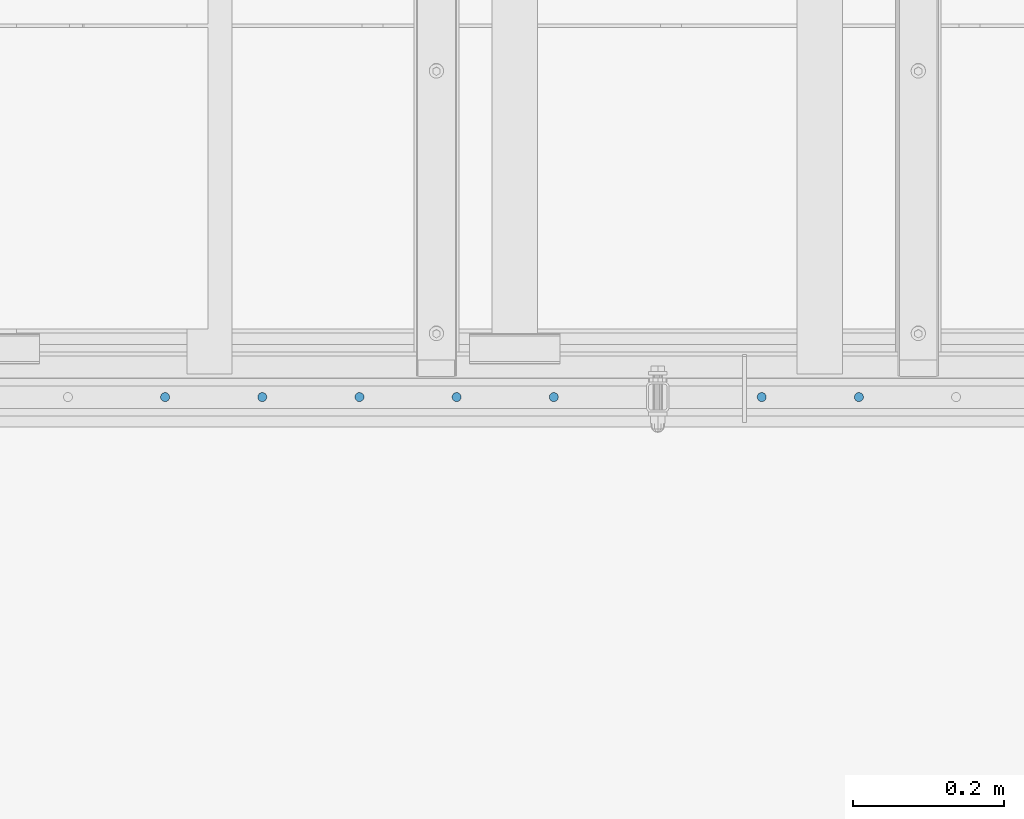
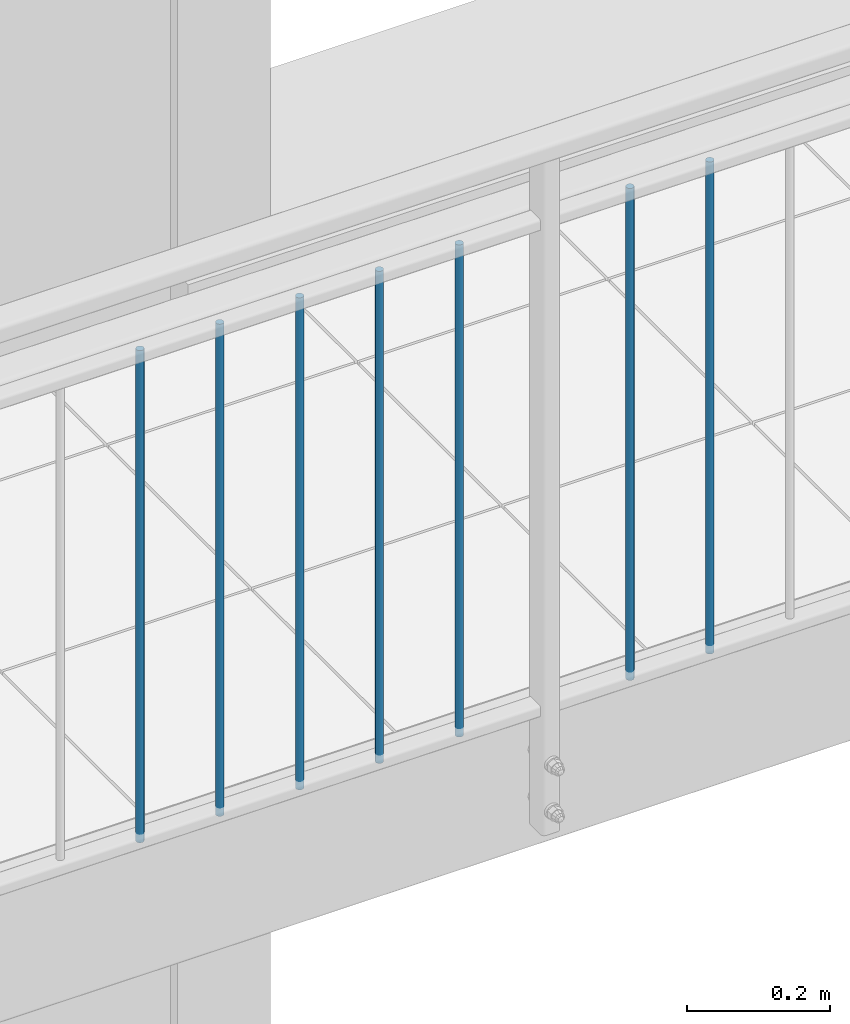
# One storey, part 19 of 162: 7 columns.
"""IFC2X3 building model written with IfcOpenShell, lengths in millimetres."""

from ifc_helpers import new_model, entity, si_unit, converted_unit, frame, origin, origin_with_axes, origin_2d, place, context, project, spatial, circle, extrude, material, element, save


model = new_model("IFC2X3")

# Units and contexts
model_context = context("Model", 3, precision=1e-09, world=origin_with_axes())
ifc_project = project(units=[si_unit("LENGTHUNIT", "METRE", prefix="MILLI"), si_unit("AREAUNIT", "SQUARE_METRE"), si_unit("VOLUMEUNIT", "CUBIC_METRE"), converted_unit("PLANEANGLEUNIT", "DEGREE", entity("IfcPlaneAngleMeasure", 0.01745329), si_unit("PLANEANGLEUNIT", "RADIAN"), dimensions=[0, 0, 0, 0, 0, 0, 0])], contexts=[model_context])

# Site, building, storey
site_placement = place(None, origin_with_axes())
site = spatial("IfcSite", under=ifc_project, at=site_placement, Name="Hermannstra?e 1a, 60318 Frankfurt", CompositionType="ELEMENT")
building_placement = place(site_placement, origin_with_axes())
building = spatial("IfcBuilding", under=site, at=building_placement, Name="Struktur 1", CompositionType="ELEMENT")
storey_placement = place(building_placement, origin_with_axes())
storey = spatial("IfcBuildingStorey", under=building, at=storey_placement, Name="Default Storey", CompositionType="ELEMENT", Elevation=0.0)

# Columns
ifc_material = material(Name="S235JR")
for number, where, z_axis, x_axis in (
    (1, (2870.023650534, 1515.609373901, 7805.0), (0.0, 0.0, -1.0), (1.0, 0.0, 0.0)),
    (2, (2998.880793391, 1515.609373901, 7805.0), (0.0, 0.0, -1.0), (1.0, 0.0, 0.0)),
    (3, (3127.737936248, 1515.609373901, 7805.0), (0.0, 0.0, -1.0), (1.0, 0.0, 0.0)),
    (4, (3256.595079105, 1515.609373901, 7805.0), (0.0, 0.0, -1.0), (1.0, 0.0, 0.0)),
    (5, (3385.452221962, 1515.609373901, 7805.0), (0.0, 0.0, -1.0), (1.0, 0.0, 0.0)),
    (6, (3661.166507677, 1515.609373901, 7805.0), (0.0, 0.0, -1.0), (1.0, 0.0, 0.0)),
    (7, (3790.023650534, 1515.609373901, 7805.0), (0.0, 0.0, -1.0), (1.0, 0.0, 0.0)),
):
    element("IfcColumn", number, at=place(None, frame(where, z_axis=z_axis, x_axis=x_axis)), inside=storey, material=ifc_material, Name="-", ObjectType="-", context=model_context, shape_type="SweptSolid", body=[
        extrude(circle(Radius=6.0, at=origin_2d()), origin(), (0.0, 0.0, -1.0), 840.0),
    ])

save(model, "model.ifc")
